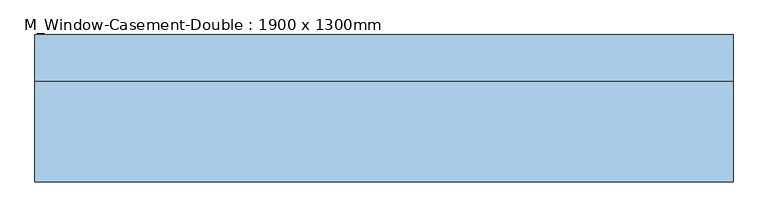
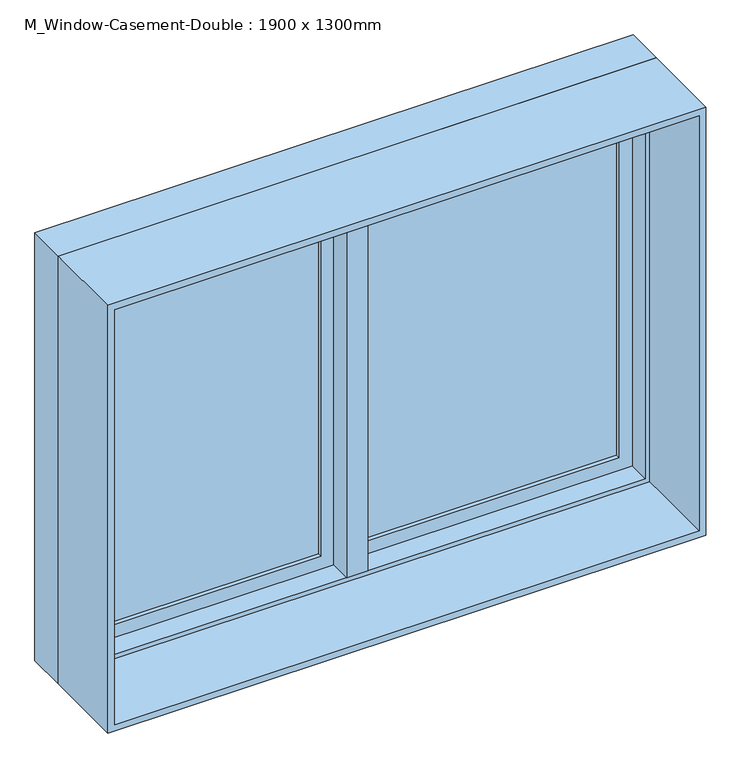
"""IFC4 building model written with IfcOpenShell, lengths in millimetres: window geometry, M_Window-Casement-Double : 1900 x 1300mm."""

from ifc_helpers import new_model, si_unit, frame, origin, place, context, project, spatial, polyline, outline, extrude, faceted_brep, source, transform, mapped, element, save


def m_window_casement_double_1900_x_1300mm_09b68162(model_context):
    return source(origin(), model_context, "Body", "SolidModel", [
        faceted_brep([(9.525, 189.05, 2172.3), (-9.525, 189.05, 2172.3), (-9.525, 138.25, 2172.3), (9.525, 138.25, 2172.3), (9.525, 189.05, 912.7), (9.525, 138.25, 912.7), (-9.525, 138.25, 912.7), (-9.525, 189.05, 912.7), (-9.525, 138.25, 931.75), (-9.525, 138.25, 2153.25), (-30.1625, 138.25, 931.75), (-30.1625, 138.25, 2153.25), (-30.1625, 74.75, 931.75), (-30.1625, 74.75, 2153.25), (30.1625, 74.75, 931.75), (30.1625, 74.75, 2153.25), (30.1625, 138.25, 931.75), (30.1625, 138.25, 2153.25), (9.525, 138.25, 931.75), (9.525, 138.25, 2153.25)], [[[0, 1, 2, 3]], [[4, 5, 6, 7]], [[1, 0, 4, 7]], [[2, 1, 7, 6, 8, 9]], [[9, 8, 10, 11]], [[11, 10, 12, 13]], [[13, 12, 14, 15]], [[15, 14, 16, 17]], [[17, 16, 18, 19]], [[0, 3, 19, 18, 5, 4]], [[18, 8, 6, 5]], [[9, 19, 3, 2]], [[8, 18, 16, 14, 12, 10]], [[19, 9, 11, 13, 15, 17]]]),
        extrude(outline(polyline([(-66.675, 170.0), (-66.675, 163.65), (-780.15, 163.65), (-780.15, 170.0), (-66.675, 170.0)])), frame((0.0, 0.0, 969.85), z_axis=(0.0, 0.0, 1.0), x_axis=(1.0, 0.0, 0.0)), (0.0, 0.0, 1.0), 1145.3),
        extrude(outline(polyline([(-780.15, 150.95), (-780.15, 157.3), (-66.675, 157.3), (-66.675, 150.95), (-780.15, 150.95)])), frame((0.0, 0.0, 969.85), z_axis=(0.0, 0.0, 1.0), x_axis=(1.0, 0.0, 0.0)), (0.0, 0.0, 1.0), 1145.3),
        extrude(outline(polyline([(780.15, 170.0), (780.15, 163.65), (66.675, 163.65), (66.675, 170.0), (780.15, 170.0)])), frame((0.0, 0.0, 969.85), z_axis=(0.0, 0.0, 1.0), x_axis=(1.0, 0.0, 0.0)), (0.0, 0.0, 1.0), 1145.3),
        extrude(outline(polyline([(66.675, 150.95), (66.675, 157.3), (780.15, 157.3), (780.15, 150.95), (66.675, 150.95)])), frame((0.0, 0.0, 969.85), z_axis=(0.0, 0.0, 1.0), x_axis=(1.0, 0.0, 0.0)), (0.0, 0.0, 1.0), 1145.3),
        extrude(outline(polyline([(2172.3, -837.3), (912.7, -837.3), (912.7, -9.525), (2172.3, -9.525), (2172.3, -837.3)]), holes=[polyline([(2115.15, -66.675), (969.85, -66.675), (969.85, -780.15), (2115.15, -780.15), (2115.15, -66.675)])]), frame((0.0, 138.25, 0.0), z_axis=(0.0, 1.0, 0.0), x_axis=(0.0, 0.0, 1.0)), (0.0, 0.0, 1.0), 44.45),
        extrude(outline(polyline([(912.7, 837.3), (2172.3, 837.3), (2172.3, 9.525), (912.7, 9.525), (912.7, 837.3)]), holes=[polyline([(969.85, 66.675), (2115.15, 66.675), (2115.15, 780.15), (969.85, 780.15), (969.85, 66.675)])]), frame((0.0, 138.25, 0.0), z_axis=(0.0, 1.0, 0.0), x_axis=(0.0, 0.0, 1.0)), (0.0, 0.0, 1.0), 44.45),
        extrude(outline(polyline([(2185.0, -850.0), (900.0, -850.0), (900.0, 850.0), (2185.0, 850.0), (2185.0, -850.0)]), holes=[polyline([(2165.95, 830.95), (919.05, 830.95), (919.05, -830.95), (2165.95, -830.95), (2165.95, 830.95)])]), frame((0.0, -170.0, 0.0), z_axis=(0.0, 1.0, 0.0), x_axis=(0.0, 0.0, 1.0)), (0.0, 0.0, 1.0), 244.75),
        faceted_brep([(818.25, 138.25, 2153.25), (818.25, 74.75, 2153.25), (-818.25, 74.75, 2153.25), (-818.25, 138.25, 2153.25), (837.3, 189.05, 2172.3), (837.3, 138.25, 2172.3), (-837.3, 138.25, 2172.3), (-837.3, 189.05, 2172.3), (850.0, 74.75, 2185.0), (850.0, 189.05, 2185.0), (-850.0, 189.05, 2185.0), (-850.0, 74.75, 2185.0), (-818.25, 74.75, 931.75), (-818.25, 138.25, 931.75), (-837.3, 138.25, 912.7), (-837.3, 189.05, 912.7), (-850.0, 189.05, 900.0), (-850.0, 74.75, 900.0), (818.25, 74.75, 931.75), (818.25, 138.25, 931.75), (837.3, 138.25, 912.7), (837.3, 189.05, 912.7), (850.0, 189.05, 900.0), (850.0, 74.75, 900.0)], [[[0, 1, 2, 3]], [[4, 5, 6, 7]], [[8, 9, 10, 11]], [[3, 2, 12, 13]], [[7, 6, 14, 15]], [[11, 10, 16, 17]], [[13, 12, 18, 19]], [[15, 14, 20, 21]], [[17, 16, 22, 23]], [[11, 17, 23, 8], [1, 18, 12, 2]], [[19, 18, 1, 0]], [[5, 20, 14, 6], [3, 13, 19, 0]], [[21, 20, 5, 4]], [[23, 22, 9, 8]], [[9, 22, 16, 10], [7, 15, 21, 4]]]),
    ])


if __name__ == "__main__":
    model = new_model("IFC4")
    model_context = context("Model", 3, world=origin())
    ifc_project = project(units=[si_unit("LENGTHUNIT", "METRE", prefix="MILLI")], contexts=[model_context])
    site = spatial("IfcSite", under=ifc_project)
    building = spatial("IfcBuilding", under=site)
    placement = place(None, origin())
    m_window_casement_double_1900_x_1300mm_shape = m_window_casement_double_1900_x_1300mm_09b68162(model_context)
    element("IfcWindow", 1, ObjectType="M_Window-Casement-Double : 1900 x 1300mm", at=placement, inside=building, context=model_context, shape_type="MappedRepresentation", body=[
        mapped(m_window_casement_double_1900_x_1300mm_shape, transform((0.0, 0.0, 0.0), x_axis=(1.0, 0.0, 0.0), y_axis=(0.0, 1.0, 0.0), z_axis=(0.0, 0.0, 1.0))),
    ])
    save(model, "model.ifc")
